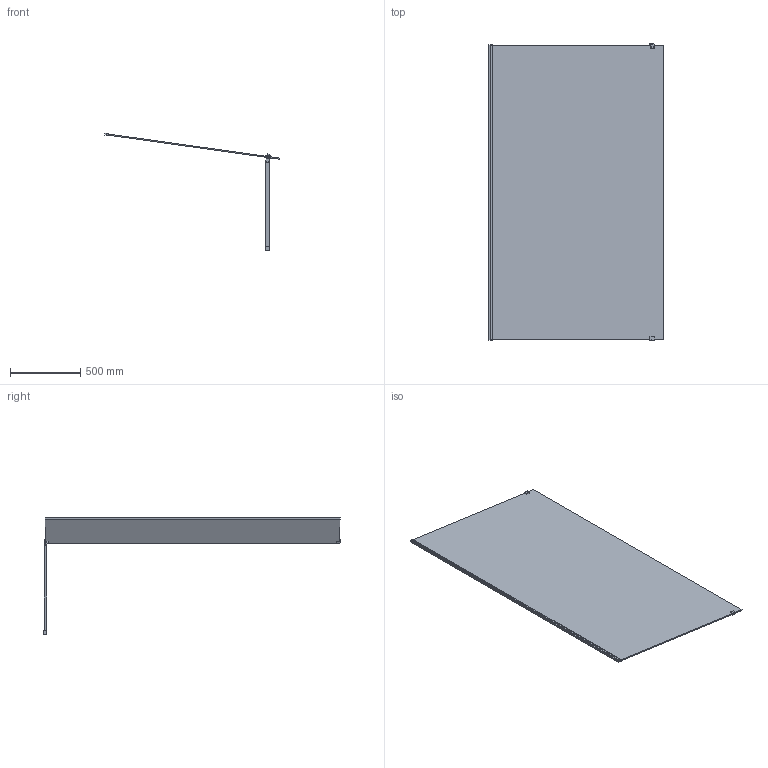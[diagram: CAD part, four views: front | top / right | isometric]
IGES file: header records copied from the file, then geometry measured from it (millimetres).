
Start section: SolidWorks IGES file using analytic representation for surfaces
Global section: file name: D:\Users\M.Szymanski\Desktop\Kabiny\PT\03. do przegrania\PT_ALTIIa_130_K3D.IGS; native system: SolidWorks 2011; preprocessor: SolidWorks 2011; author: M.Szymanski; date: 181004.121658; units: millimetre
Bounding box: 1245.97 x 2115 x 837.46 mm (x, y, z)
Surface area: 5571112.3 mm2 (no closed solid volume)
Topology: 0 solids, 0 shells, 66 faces, 495 edges, 660 vertices
Faces by surface type: bspline 60, revolution 6
